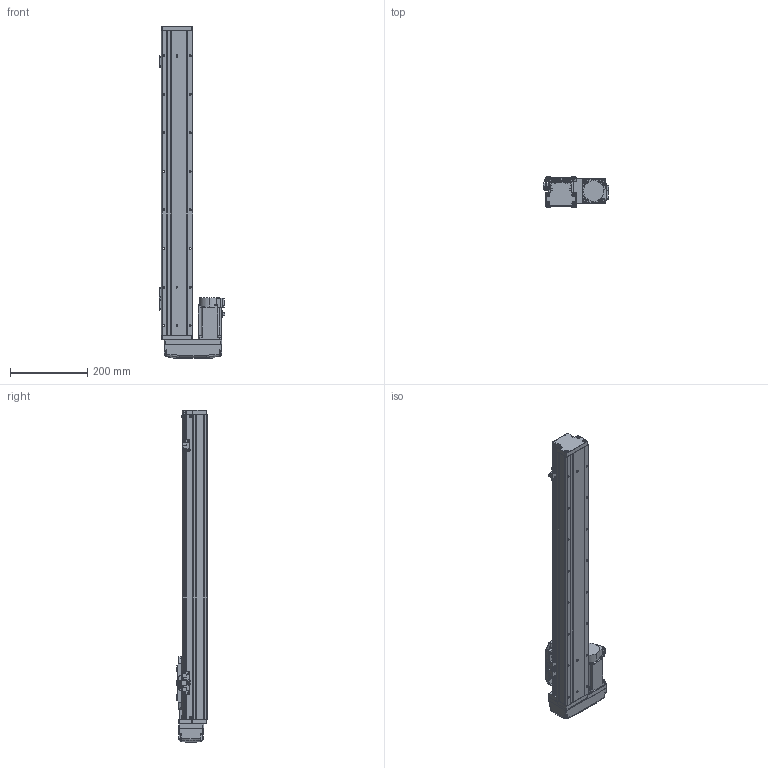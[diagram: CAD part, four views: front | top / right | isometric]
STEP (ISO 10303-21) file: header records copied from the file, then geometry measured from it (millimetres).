
FILE_DESCRIPTION (( 'STEP AP203' ), '1' );
FILE_NAME ('GTH8-600-BR-M20-C4.step', '2022-09-23T01:10:54', ( '微软用户' ), ( '微软中国' ), 'SwSTEP 2.0', 'SolidWorks 2020', '' );
FILE_SCHEMA (( 'CONFIG_CONTROL_DESIGN' ));
Length unit declared in the file: millimetre
Products named in the file (18): BTH-M3X5X6; GTH80-001_600; GBT 70.1-M3℅6; hg-kn43j_-s100_; GTH80-003; GBT 70.1-M4×16; CTHA86-015-1_CTHA86-015-2; GTH80-004; GTH80-028; CTHA86-033_M40B; GTH80-006; GTH50-024; GTH8-600-BR-M20-C4; GTH80-013; GTH50-023; GBT 70.3-M3℅6; GBT96.1-2002 3×0.8; GTH80-022
Assembly tree (57 placements, depth 2):
  GTH8-600-BR-M20-C4
    GTH80-001_600
    GTH80-003
    GTH80-004
    GTH80-006
    GTH80-013
    GBT 70.3-M3℅6  x4
    GTH80-022
    GBT 70.1-M3℅6  x14
    GBT 70.1-M4×16  x8
    GTH80-028  x2
    GTH50-024  x3
    GTH50-023  x3
    GBT96.1-2002 3×0.8  x6
    BTH-M3X5X6  x8
    hg-kn43j_-s100_
    CTHA86-015-1_CTHA86-015-2
    CTHA86-033_M40B
Bounding box: 169.7 x 78 x 861 mm (x, y, z)
Volume: 4410667.2 mm3; surface area: 463096.1 mm2
Topology: 59 solids, 59 shells, 2240 faces, 5175 edges, 3171 vertices
Faces by surface type: plane 1187, cylinder 611, cone 260, torus 166, bspline 8, sphere 8
Entity records: 40922 total; most frequent: CARTESIAN_POINT 7193, DIRECTION 6649, ORIENTED_EDGE 6168, EDGE_CURVE 3084, AXIS2_PLACEMENT_3D 2325, VECTOR 1999, LINE 1999, VERTEX_POINT 1946
